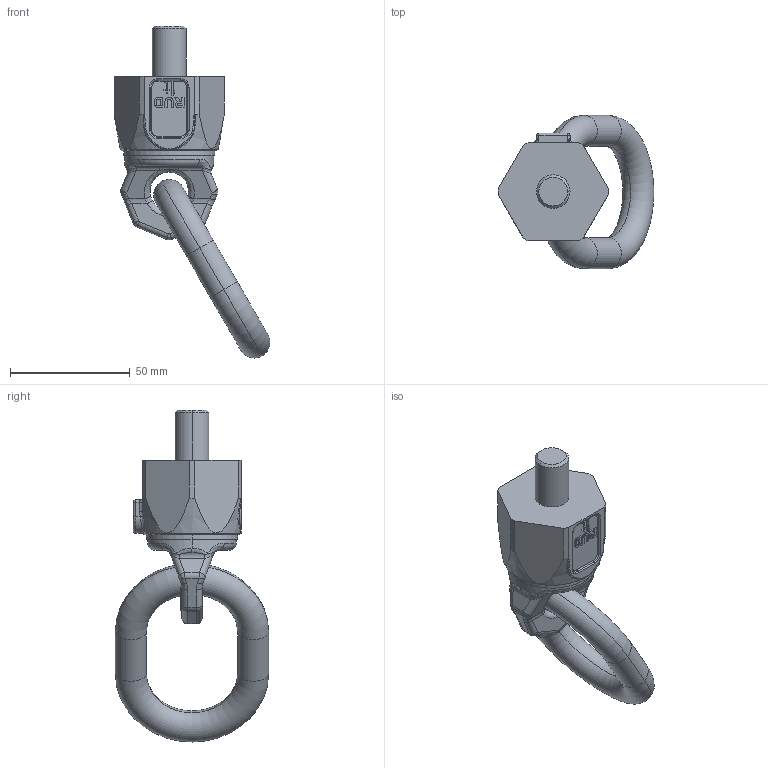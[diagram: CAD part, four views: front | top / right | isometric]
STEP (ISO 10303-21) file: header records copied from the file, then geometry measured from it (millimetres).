
FILE_DESCRIPTION((''),'2;1');
FILE_NAME('001-M32371-P-10_ASM','2018-05-09T',('Anja.Joas'),(''),'PRO/ENGINEER BY PARAMETRIC TECHNOLOGY CORPORATION, 2011490','PRO/ENGINEER BY PARAMETRIC TECHNOLOGY CORPORATION, 2011490','');
FILE_SCHEMA(('CONFIG_CONTROL_DESIGN'));
Length unit declared in the file: millimetre
Products named in the file (5): 001-M31523-P-60_AF0; 001-M31527-P-2; 001-M09397-P-40_AF0; 001-M09397-P-3; 001-M32371-P-10_ASM
Assembly tree (4 placements, depth 2):
  001-M32371-P-10_ASM
    001-M31523-P-60_AF0
    001-M31527-P-2
    001-M09397-P-40_AF0
    001-M09397-P-3
Bounding box: 65 x 64 x 138.49 mm (x, y, z)
Volume: 89626.2 mm3; surface area: 23702.1 mm2
Topology: 4 solids, 4 shells, 612 faces, 1628 edges, 1047 vertices
Faces by surface type: plane 441, cylinder 75, bspline 59, torus 29, cone 5, sphere 2, extrusion 1
Entity records: 21981 total; most frequent: CARTESIAN_POINT 6976, ORIENTED_EDGE 3256, DIRECTION 2834, EDGE_CURVE 1628, VECTOR 1276, LINE 1275, VERTEX_POINT 1047, AXIS2_PLACEMENT_3D 779
